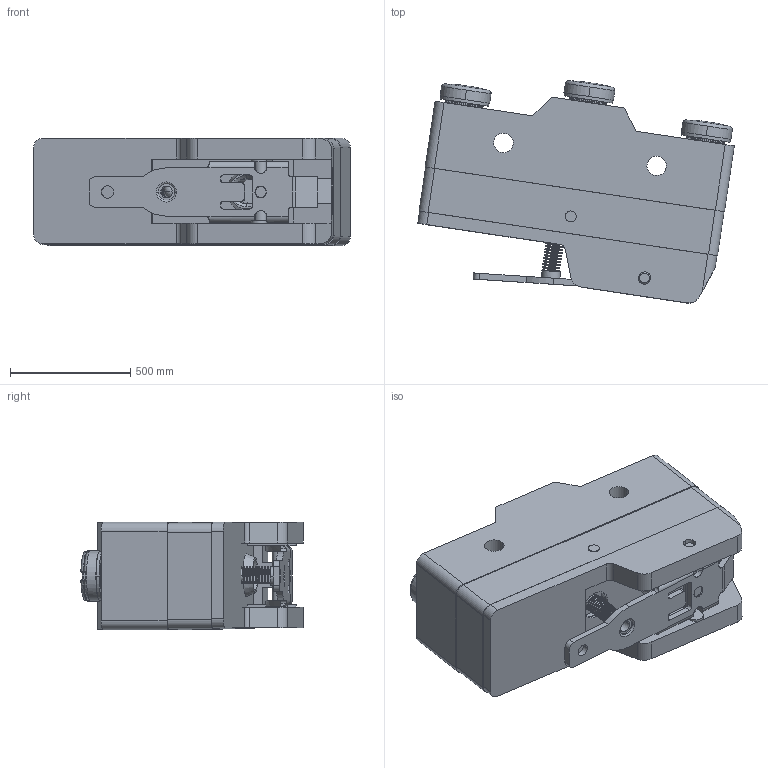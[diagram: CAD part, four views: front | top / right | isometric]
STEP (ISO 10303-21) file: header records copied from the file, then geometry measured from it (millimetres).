
FILE_DESCRIPTION((''),'2;1');
FILE_NAME('ASM0005_ASM','2016-08-17T',('ABS'),(''),'PRO/ENGINEER BY PARAMETRIC TECHNOLOGY CORPORATION, 2012360','PRO/ENGINEER BY PARAMETRIC TECHNOLOGY CORPORATION, 2012360','');
FILE_SCHEMA(('CONFIG_CONTROL_DESIGN'));
Length unit declared in the file: inch
Products named in the file (3): 22; 1; ASM0005_ASM
Assembly tree (2 placements, depth 2):
  ASM0005_ASM
    22
    1
Bounding box: 1318.03 x 925.56 x 447.04 mm (x, y, z)
Volume: 243141760.9 mm3; surface area: 8157432.5 mm2
Topology: 2 solids, 14 shells, 1009 faces, 2906 edges, 1921 vertices
Faces by surface type: cylinder 557, plane 299, bspline 72, torus 38, cone 24, sphere 19
Entity records: 44985 total; most frequent: CARTESIAN_POINT 18479, ORIENTED_EDGE 5786, DIRECTION 5409, EDGE_CURVE 2893, AXIS2_PLACEMENT_3D 2063, VERTEX_POINT 1921, VECTOR 1283, LINE 1283
